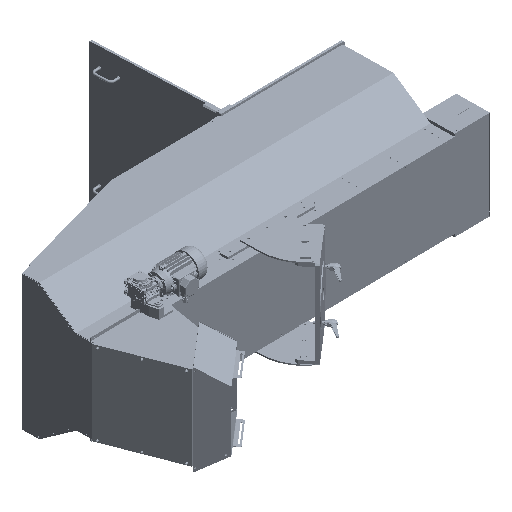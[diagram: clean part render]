
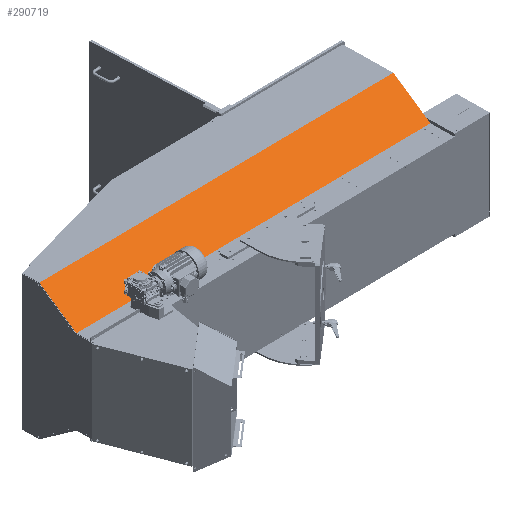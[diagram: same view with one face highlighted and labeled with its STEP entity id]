
A CAD part, isometric view. The second image highlights one B-rep face of the part: STEP entity #290719.
In plain terms, the highlighted planar face has unit normal (0.008, -0.574, 0.819).
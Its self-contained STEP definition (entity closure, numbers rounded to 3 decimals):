
#7733 = CARTESIAN_POINT ( 'NONE',  ( 1564.512, -579.386, 490.932 ) ) ;
#35942 = DIRECTION ( 'NONE',  ( 0.005, 0.819, 0.573 ) ) ;
#41467 = EDGE_CURVE ( 'NONE', #191063, #111844, #164762, .T. ) ;
#50206 = ORIENTED_EDGE ( 'NONE', *, *, #247973, .T. ) ;
#55774 = DIRECTION ( 'NONE',  ( -0.011, 0.819, 0.574 ) ) ;
#58118 = ORIENTED_EDGE ( 'NONE', *, *, #224077, .T. ) ;
#71126 = VECTOR ( 'NONE', #189886, 1000. ) ;
#71895 = CARTESIAN_POINT ( 'NONE',  ( -160.842, 208.629, 1059.1 ) ) ;
#75201 = ORIENTED_EDGE ( 'NONE', *, *, #193531, .T. ) ;
#80011 = DIRECTION ( 'NONE',  ( 0.008, -0.574, 0.819 ) ) ;
#84514 = CARTESIAN_POINT ( 'NONE',  ( -158.451, 32.983, 936.1 ) ) ;
#111844 = VERTEX_POINT ( 'NONE', #84514 ) ;
#118938 = VERTEX_POINT ( 'NONE', #256147 ) ;
#121934 = VECTOR ( 'NONE', #134543, 1000. ) ;
#130293 = CARTESIAN_POINT ( 'NONE',  ( -160.842, 208.629, 1059.1 ) ) ;
#133590 = DIRECTION ( 'NONE',  ( 1., 0.014, 0. ) ) ;
#134543 = DIRECTION ( 'NONE',  ( -1., -0.014, 0. ) ) ;
#144584 = ORIENTED_EDGE ( 'NONE', *, *, #41467, .T. ) ;
#148966 = VECTOR ( 'NONE', #133590, 1000. ) ;
#150208 = CARTESIAN_POINT ( 'NONE',  ( 1561.39, 56.396, 936.1 ) ) ;
#155243 = AXIS2_PLACEMENT_3D ( 'NONE', #7733, #80011, #35942 ) ;
#158136 = CARTESIAN_POINT ( 'NONE',  ( 1558.999, 232.042, 1059.1 ) ) ;
#158718 = CARTESIAN_POINT ( 'NONE',  ( -158.451, 32.983, 936.1 ) ) ;
#164762 = LINE ( 'NONE', #71895, #71126 ) ;
#176109 = CARTESIAN_POINT ( 'NONE',  ( 1558.999, 232.042, 1059.1 ) ) ;
#181627 = VECTOR ( 'NONE', #55774, 1000. ) ;
#183272 = LINE ( 'NONE', #158136, #121934 ) ;
#189886 = DIRECTION ( 'NONE',  ( 0.011, -0.819, -0.574 ) ) ;
#191063 = VERTEX_POINT ( 'NONE', #130293 ) ;
#193531 = EDGE_CURVE ( 'NONE', #111844, #118938, #234187, .T. ) ;
#221038 = LINE ( 'NONE', #150208, #181627 ) ;
#221210 = VERTEX_POINT ( 'NONE', #176109 ) ;
#223252 = PLANE ( 'NONE',  #155243 ) ;
#224077 = EDGE_CURVE ( 'NONE', #118938, #221210, #221038, .T. ) ;
#234187 = LINE ( 'NONE', #158718, #148966 ) ;
#245292 = FACE_OUTER_BOUND ( 'NONE', #275604, .T. ) ;
#247973 = EDGE_CURVE ( 'NONE', #221210, #191063, #183272, .T. ) ;
#256147 = CARTESIAN_POINT ( 'NONE',  ( 1561.39, 56.396, 936.1 ) ) ;
#275604 = EDGE_LOOP ( 'NONE', ( #144584, #75201, #58118, #50206 ) ) ;
#290719 = ADVANCED_FACE ( 'NONE', ( #245292 ), #223252, .T. ) ;
